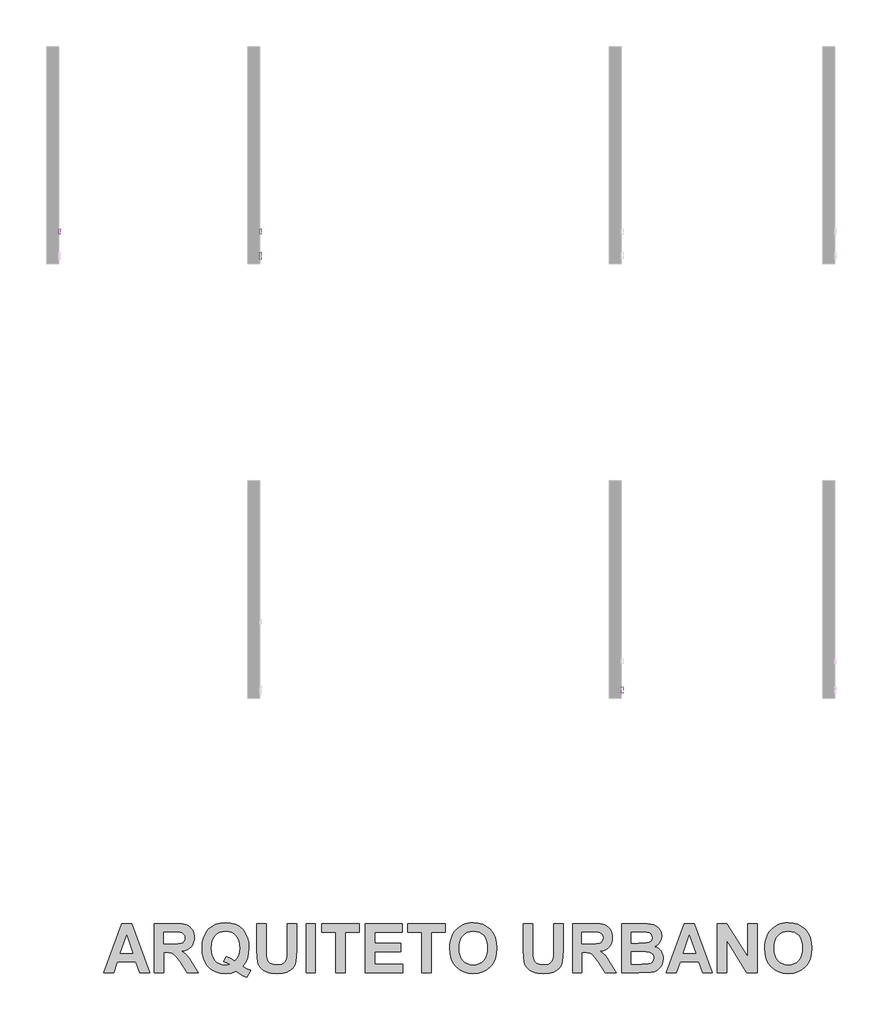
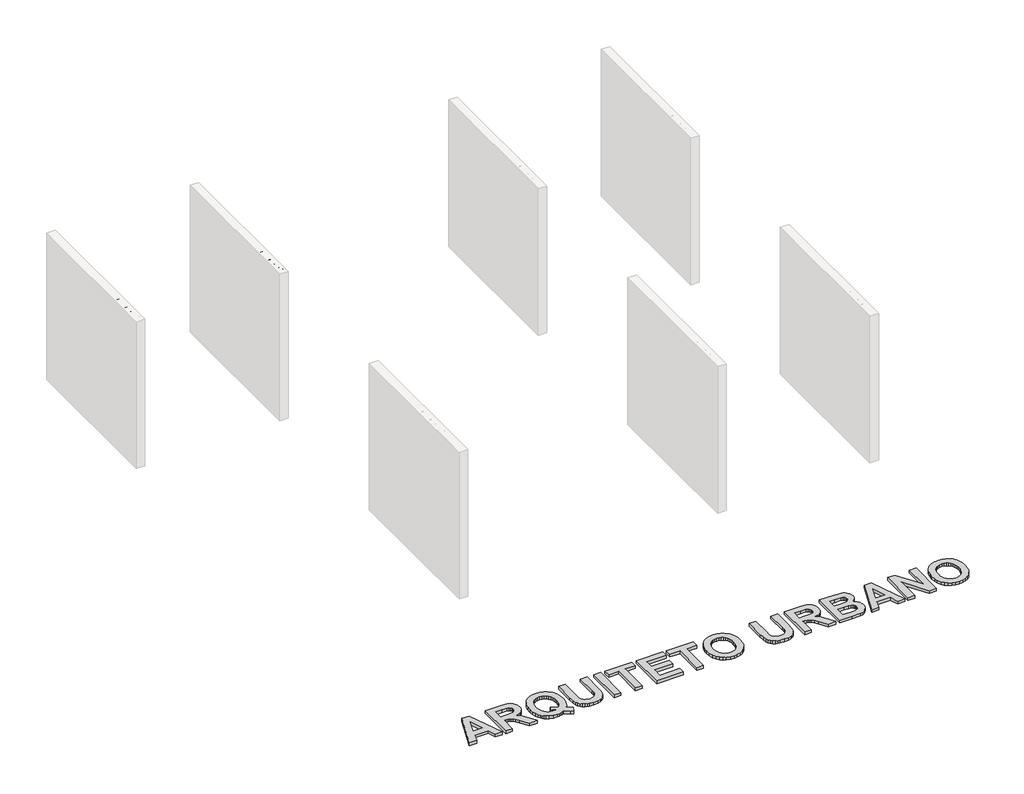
# One storey, part 3 of 8: 5 proxies.
"""IFC4 building model written with IfcOpenShell, lengths in millimetres."""

from ifc_helpers import new_model, si_unit, frame, origin, origin_with_axes, place, context, project, spatial, polyline, outline, extrude, element, save

model = new_model("IFC4")

# Units and contexts
model_context = context("Model", 3, world=origin())
ifc_project = project(units=[si_unit("LENGTHUNIT", "METRE", prefix="MILLI")], contexts=[model_context])

# Site, building, storey
site = spatial("IfcSite", under=ifc_project)
building = spatial("IfcBuilding", under=site)
storey = spatial("IfcBuildingStorey", under=building, Name="PORTOBELLO - SHOWROOM", Elevation=0.0)

# Proxies
placement = place(None, origin())
element("IfcBuildingElementProxy", 1, Name="10mm Arial", ObjectType="10mm Arial", at=placement, inside=storey, context=model_context, shape_type="SweptSolid", body=[
    extrude(outline(polyline([(-3776.6101833, 2548.8308244), (-3736.5110458, 2649.2871345), (-3725.8179425, 2649.2871345), (-3685.718805, 2548.8308244), (-3698.9870823, 2548.8308244), (-3710.489526, 2580.2234213), (-3751.8639877, 2580.2234213), (-3763.341906, 2548.8308244), (-3776.6101833, 2548.8308244)]), holes=[polyline([(-3747.2532, 2592.7804601), (-3715.0757882, 2592.7804601), (-3724.1256853, 2617.4776047), (-3731.1644941, 2636.7300958), (-3737.418488, 2619.6358457), (-3747.2532, 2592.7804601)])]), frame((-16732.9960483, 0.0, 0.0), z_axis=(1.0, 0.0, 0.0), x_axis=(0.0, 1.0, 0.0)), (0.0, 0.0, 1.0), 20.0),
    extrude(outline(polyline([(-3673.8730047, 2548.8308244), (-3673.8730047, 2622.6034272), (-3661.315966, 2622.6034272), (-3661.315966, 2612.3027313), (-3651.7142459, 2621.2054756), (-3638.6053841, 2624.173057), (-3626.7473212, 2621.781824), (-3618.6539173, 2615.5033046), (-3614.8892582, 2606.2694666), (-3614.2270706, 2594.1293607), (-3614.2270706, 2548.8308244), (-3626.7841094, 2548.8308244), (-3626.7841094, 2592.4371035), (-3628.2311119, 2603.5471398), (-3633.3446716, 2609.420989), (-3641.965373, 2611.6160182), (-3655.5892696, 2606.6863995), (-3659.8842919, 2599.5433574), (-3661.315966, 2587.9734687), (-3661.315966, 2548.8308244), (-3673.8730047, 2548.8308244)])), frame((-16732.9960483, 0.0, 0.0), z_axis=(1.0, 0.0, 0.0), x_axis=(0.0, 1.0, 0.0)), (0.0, 0.0, 1.0), 20.0),
    extrude(outline(polyline([(-16712.9960483, -3584.4041035), (-16712.9960483, -3596.9611423), (-16732.9960483, -3596.9611423), (-16732.9960483, -3584.4041035), (-16712.9960483, -3584.4041035)])), frame((0.0, 0.0, 2548.8308244), z_axis=(0.0, 0.0, 1.0), x_axis=(1.0, 0.0, 0.0)), (0.0, 0.0, 1.0), 73.7726028),
    extrude(outline(polyline([(-16712.9960483, -3584.4041035), (-16712.9960483, -3596.9611423), (-16732.9960483, -3596.9611423), (-16732.9960483, -3584.4041035), (-16712.9960483, -3584.4041035)])), frame((0.0, 0.0, 2636.7300958), z_axis=(0.0, 0.0, 1.0), x_axis=(1.0, 0.0, 0.0)), (0.0, 0.0, 1.0), 12.5570388),
    extrude(outline(polyline([(-3570.2774349, 2570.8056422), (-3557.7203961, 2572.3752721), (-3551.9078606, 2563.0555949), (-3538.5905324, 2559.8182333), (-3525.7882389, 2562.7858147), (-3521.6189097, 2569.7510472), (-3525.8127644, 2575.3919044), (-3538.7376852, 2578.9726225), (-3557.6468197, 2585.1162518), (-3565.8996392, 2592.2899507), (-3568.707805, 2602.4189683), (-3566.4514621, 2611.7754338), (-3560.2955701, 2618.9246072), (-3552.3125308, 2622.6402154), (-3541.5090629, 2624.173057), (-3526.2296973, 2621.7082476), (-3516.5176127, 2615.0373208), (-3512.2011306, 2603.767869), (-3524.7581694, 2602.1982392), (-3529.4793216, 2609.1266834), (-3540.5280442, 2611.6160182), (-3552.5455227, 2609.237048), (-3556.1507663, 2603.6942926), (-3554.6547128, 2600.0399981), (-3549.9703488, 2597.2686204), (-3539.1546181, 2594.5953446), (-3520.7237301, 2588.6847072), (-3512.1643424, 2581.9892549), (-3509.0618709, 2571.0754224), (-3512.7039026, 2559.0579439), (-3523.213065, 2550.3391406), (-3538.7622106, 2547.2611945), (-3551.4234826, 2548.7449853), (-3560.6634521, 2553.1963574), (-3566.8316069, 2560.56626), (-3570.2774349, 2570.8056422)])), frame((-16732.9960483, 0.0, 0.0), z_axis=(1.0, 0.0, 0.0), x_axis=(0.0, 1.0, 0.0)), (0.0, 0.0, 1.0), 20.0),
])
element("IfcBuildingElementProxy", 2, Name="10mm Arial", ObjectType="10mm Arial", at=placement, inside=storey, context=model_context, shape_type="SweptSolid", body=[
    extrude(outline(polyline([(-9164.9115358, 2548.8308244), (-9164.9115358, 2649.2871345), (-9151.4715803, 2649.2871345), (-9098.9870823, 2569.7019962), (-9098.9870823, 2649.2871345), (-9086.4300435, 2649.2871345), (-9086.4300435, 2548.8308244), (-9099.8699991, 2548.8308244), (-9152.354497, 2628.4404881), (-9152.354497, 2548.8308244), (-9164.9115358, 2548.8308244)])), frame((-12236.674587, 0.0, 0.0), z_axis=(1.0, 0.0, 0.0), x_axis=(0.0, 1.0, 0.0)), (0.0, 0.0, 1.0), 20.0),
    extrude(outline(polyline([(-9014.3742234, 2570.8056422), (-9002.0624393, 2569.2360124), (-9006.498483, 2559.9592547), (-9013.5771457, 2553.0246791), (-9023.1390119, 2548.7020657), (-9035.024666, 2547.2611945), (-9049.75834, 2549.7474637), (-9061.0952368, 2557.2062711), (-9068.324118, 2569.1532389), (-9070.733745, 2585.1039891), (-9068.2995925, 2601.5912339), (-9060.9971349, 2613.9214121), (-9049.8135223, 2621.6101458), (-9035.7359046, 2624.173057), (-9022.0966796, 2621.6162771), (-9011.1981755, 2613.9459375), (-9004.0520677, 2601.6402848), (-9001.6700318, 2585.1775655), (-9001.7436082, 2581.7930512), (-9058.1767063, 2581.7930512), (-9056.0031368, 2572.3936662), (-9050.9539564, 2565.483616), (-9043.6668272, 2561.234579), (-9034.7794114, 2559.8182333), (-9022.4676273, 2562.4424582), (-9014.3742234, 2570.8056422)]), holes=[polyline([(-9058.1767063, 2594.3500899), (-9014.2270706, 2594.3500899), (-9019.2547912, 2605.7299063), (-9026.5756429, 2610.1444902), (-9035.7849555, 2611.6160182), (-9051.248262, 2606.9193914), (-9056.1135014, 2601.4287526), (-9058.1767063, 2594.3500899)])]), frame((-12236.674587, 0.0, 0.0), z_axis=(1.0, 0.0, 0.0), x_axis=(0.0, 1.0, 0.0)), (0.0, 0.0, 1.0), 20.0),
    extrude(outline(polyline([(-8971.0131989, 2548.8308244), (-8996.9611423, 2622.6034272), (-8983.6683395, 2622.6034272), (-8967.9475156, 2578.4085368), (-8963.2141006, 2563.5461042), (-8958.5787874, 2577.5746709), (-8942.7598617, 2622.6034272), (-8929.4670589, 2622.6034272), (-8955.0961712, 2548.8308244), (-8971.0131989, 2548.8308244)])), frame((-12236.674587, 0.0, 0.0), z_axis=(1.0, 0.0, 0.0), x_axis=(0.0, 1.0, 0.0)), (0.0, 0.0, 1.0), 20.0),
    extrude(outline(polyline([(-8866.8290179, 2570.8056422), (-8854.5172337, 2569.2360124), (-8858.9532775, 2559.9592547), (-8866.0319402, 2553.0246791), (-8875.5938064, 2548.7020657), (-8887.4794605, 2547.2611945), (-8902.2131344, 2549.7474637), (-8913.5500312, 2557.2062711), (-8920.7789124, 2569.1532389), (-8923.1885395, 2585.1039891), (-8920.754387, 2601.5912339), (-8913.4519294, 2613.9214121), (-8902.2683167, 2621.6101458), (-8888.190699, 2624.173057), (-8874.5514741, 2621.6162771), (-8863.65297, 2613.9459375), (-8856.5068622, 2601.6402848), (-8854.1248263, 2585.1775655), (-8854.1984027, 2581.7930512), (-8910.6315007, 2581.7930512), (-8908.4579313, 2572.3936662), (-8903.4087509, 2565.483616), (-8896.1216217, 2561.234579), (-8887.2342059, 2559.8182333), (-8874.9224217, 2562.4424582), (-8866.8290179, 2570.8056422)]), holes=[polyline([(-8910.6315007, 2594.3500899), (-8866.6818651, 2594.3500899), (-8871.7095857, 2605.7299063), (-8879.0304374, 2610.1444902), (-8888.23975, 2611.6160182), (-8903.7030565, 2606.9193914), (-8908.5682959, 2601.4287526), (-8910.6315007, 2594.3500899)])]), frame((-12236.674587, 0.0, 0.0), z_axis=(1.0, 0.0, 0.0), x_axis=(0.0, 1.0, 0.0)), (0.0, 0.0, 1.0), 20.0),
])
element("IfcBuildingElementProxy", 3, Name="10mm Arial Narrow", ObjectType="10mm Arial Narrow", at=placement, inside=storey, context=model_context, shape_type="SweptSolid", body=[
    extrude(outline(polyline([(-3457.7764767, 2548.8308244), (-3457.7764767, 2649.5494281), (-3426.479592, 2649.5494281), (-3410.1838905, 2647.6711074), (-3398.7109044, 2638.1906642), (-3394.4212259, 2621.1715554), (-3396.2075343, 2609.0957299), (-3401.5664595, 2599.4693361), (-3411.3102484, 2593.1680777), (-3426.2511476, 2591.0676582), (-3448.029515, 2591.0676582), (-3448.029515, 2548.8308244), (-3457.7764767, 2548.8308244)]), holes=[polyline([(-3448.029515, 2602.4391135), (-3425.0581601, 2602.4391135), (-3409.1939647, 2606.9699277), (-3404.1681876, 2620.6385184), (-3406.6430021, 2630.8042949), (-3412.6206309, 2636.6042447), (-3425.2866045, 2638.1779729), (-3448.029515, 2638.1779729), (-3448.029515, 2602.4391135)])]), frame((-16732.9960483, 0.0, 0.0), z_axis=(1.0, 0.0, 0.0), x_axis=(0.0, 1.0, 0.0)), (0.0, 0.0, 1.0), 20.0),
    extrude(outline(polyline([(-3386.2987579, 2585.3819306), (-3384.344289, 2601.9727061), (-3378.4808824, 2613.9247909), (-3369.6223157, 2621.1493455), (-3358.6823665, 2623.5575304), (-3347.869331, 2621.1493455), (-3338.9853815, 2613.9247909), (-3333.0458268, 2602.1630765), (-3331.0659752, 2586.143412), (-3333.0109255, 2568.9815254), (-3338.8457766, 2556.8390702), (-3347.6948248, 2549.6145156), (-3358.6823665, 2547.2063308), (-3369.5429947, 2549.6208613), (-3378.4174256, 2556.8644529), (-3384.3284248, 2568.8228834), (-3386.2987579, 2585.3819306)]), holes=[polyline([(-3376.5517962, 2585.4073133), (-3375.2477594, 2572.8555619), (-3371.3356488, 2563.9843038), (-3365.494452, 2558.7110453), (-3358.4031567, 2556.9532924), (-3351.6830835, 2558.7269095), (-3345.9910102, 2564.0477606), (-3342.1074552, 2572.9348829), (-3340.8129368, 2585.4073133), (-3342.1169737, 2597.9209906), (-3346.0290843, 2606.7795573), (-3351.870281, 2612.0528159), (-3358.9615764, 2613.8105687), (-3365.7292421, 2612.0432974), (-3371.4117969, 2606.7414833), (-3375.2667964, 2597.873398), (-3376.5517962, 2585.4073133)])]), frame((-16732.9960483, 0.0, 0.0), z_axis=(1.0, 0.0, 0.0), x_axis=(0.0, 1.0, 0.0)), (0.0, 0.0, 1.0), 20.0),
    extrude(outline(polyline([(-3259.5882564, 2556.9532924), (-3257.9637628, 2547.2063308), (-3265.3247495, 2547.2063308), (-3273.5995138, 2549.3257873), (-3277.9145749, 2555.1257371), (-3279.0821797, 2569.7715623), (-3279.0821797, 2612.1860751), (-3287.2046478, 2612.1860751), (-3287.2046478, 2615.4350624), (-3288.8291414, 2610.5615815), (-3296.3931897, 2612.1860751), (-3302.4723494, 2609.8635569), (-3306.3432131, 2603.3782738), (-3308.3230647, 2587.9709673), (-3308.3230647, 2548.8308244), (-3318.0700263, 2548.8308244), (-3318.0700263, 2621.9330368), (-3308.3230647, 2621.9330368), (-3308.3230647, 2612.2368406), (-3302.0789174, 2621.3238517), (-3295.6824738, 2623.5575304), (-3287.2046478, 2621.9330368), (-3279.0821797, 2621.9330368), (-3279.0821797, 2638.1779729), (-3269.3352181, 2646.3004409), (-3269.3352181, 2621.9330368), (-3259.5882564, 2621.9330368), (-3259.5882564, 2612.1860751), (-3269.3352181, 2612.1860751), (-3269.3352181, 2567.5378836), (-3268.4722058, 2559.5423291), (-3263.8525521, 2556.9532924), (-3259.5882564, 2556.9532924)])), frame((-16732.9960483, 0.0, 0.0), z_axis=(1.0, 0.0, 0.0), x_axis=(0.0, 1.0, 0.0)), (0.0, 0.0, 1.0), 20.0),
    extrude(outline(polyline([(-3253.090282, 2585.3819306), (-3251.1358131, 2601.9727061), (-3245.2724065, 2613.9247909), (-3236.4138398, 2621.1493455), (-3225.4738906, 2623.5575304), (-3214.660855, 2621.1493455), (-3205.7769056, 2613.9247909), (-3199.8373508, 2602.1630765), (-3197.8574993, 2586.143412), (-3199.8024496, 2568.9815254), (-3205.6373007, 2556.8390702), (-3214.4863489, 2549.6145156), (-3225.4738906, 2547.2063308), (-3236.3345188, 2549.6208613), (-3245.2089497, 2556.8644529), (-3251.1199489, 2568.8228834), (-3253.090282, 2585.3819306)]), holes=[polyline([(-3243.3433203, 2585.4073133), (-3242.0392834, 2572.8555619), (-3238.1271729, 2563.9843038), (-3232.2859761, 2558.7110453), (-3225.1946808, 2556.9532924), (-3218.4746076, 2558.7269095), (-3212.7825343, 2564.0477606), (-3208.8989793, 2572.9348829), (-3207.6044609, 2585.4073133), (-3208.9084978, 2597.9209906), (-3212.8206084, 2606.7795573), (-3218.6618051, 2612.0528159), (-3225.7531005, 2613.8105687), (-3232.5207662, 2612.0432974), (-3238.203321, 2606.7414833), (-3242.0583205, 2597.873398), (-3243.3433203, 2585.4073133)])]), frame((-16732.9960483, 0.0, 0.0), z_axis=(1.0, 0.0, 0.0), x_axis=(0.0, 1.0, 0.0)), (0.0, 0.0, 1.0), 20.0),
    extrude(outline(polyline([(-3175.1145887, 2548.8308244), (-3184.8615504, 2548.8308244), (-3184.8615504, 2649.5494281), (-3175.1145887, 2649.5494281), (-3175.1145887, 2614.140544), (-3167.715528, 2621.2223208), (-3158.5142947, 2623.5575304), (-3145.632568, 2619.3566915), (-3136.3551865, 2606.6272611), (-3132.8777549, 2585.9403503), (-3134.8100139, 2569.4860068), (-3140.6067909, 2557.2832677), (-3148.9799132, 2549.725565), (-3158.6412082, 2547.2063308), (-3167.9820465, 2549.8207502), (-3175.1145887, 2557.5878602), (-3175.1145887, 2548.8308244)]), holes=[polyline([(-3175.1145887, 2585.9403503), (-3173.0332063, 2568.692797), (-3167.144417, 2559.9611439), (-3158.6919737, 2556.9532924), (-3152.7492461, 2558.7427737), (-3147.5108887, 2564.1112174), (-3142.6247166, 2585.5342269), (-3147.3332098, 2606.9699277), (-3152.5779128, 2612.1004085), (-3158.8950354, 2613.8105687), (-3164.8726642, 2612.0210875), (-3170.1649598, 2606.6526438), (-3175.1145887, 2585.9403503)])]), frame((-16732.9960483, 0.0, 0.0), z_axis=(1.0, 0.0, 0.0), x_axis=(0.0, 1.0, 0.0)), (0.0, 0.0, 1.0), 20.0),
    extrude(outline(polyline([(-3080.8939594, 2571.5737349), (-3071.1469978, 2569.9492413), (-3074.8465281, 2560.0626747), (-3080.665515, 2552.9428238), (-3088.3691683, 2548.640454), (-3097.7226979, 2547.2063308), (-3109.3162519, 2549.6208613), (-3118.4603741, 2556.8644529), (-3124.3999289, 2568.6705872), (-3126.3797805, 2584.7727455), (-3124.3904104, 2601.4396692), (-3118.4223001, 2613.6201984), (-3109.4082642, 2621.0731974), (-3098.2811176, 2623.5575304), (-3087.5981684, 2621.1588641), (-3078.8506511, 2613.962865), (-3073.0158, 2602.2233604), (-3071.0708496, 2586.1941774), (-3071.1469978, 2582.9451902), (-3116.6328188, 2582.9451902), (-3110.6298073, 2563.5020323), (-3104.699771, 2558.5904774), (-3097.5957843, 2556.9532924), (-3087.4173166, 2560.608403), (-3080.8939594, 2571.5737349)]), holes=[polyline([(-3115.9728683, 2592.6921518), (-3080.8939594, 2592.6921518), (-3085.1582551, 2606.9572363), (-3090.9835877, 2612.0972356), (-3098.2049694, 2613.8105687), (-3110.4140542, 2608.0994584), (-3115.9728683, 2592.6921518)])]), frame((-16732.9960483, 0.0, 0.0), z_axis=(1.0, 0.0, 0.0), x_axis=(0.0, 1.0, 0.0)), (0.0, 0.0, 1.0), 20.0),
    extrude(outline(polyline([(-16712.9960483, -3048.4040872), (-16712.9960483, -3058.1510489), (-16732.9960483, -3058.1510489), (-16732.9960483, -3048.4040872), (-16712.9960483, -3048.4040872)])), frame((0.0, 0.0, 2548.8308244), z_axis=(0.0, 0.0, 1.0), x_axis=(1.0, 0.0, 0.0)), (0.0, 0.0, 1.0), 100.7186038),
    extrude(outline(polyline([(-16712.9960483, -3022.4121895), (-16712.9960483, -3032.1591512), (-16732.9960483, -3032.1591512), (-16732.9960483, -3022.4121895), (-16712.9960483, -3022.4121895)])), frame((0.0, 0.0, 2548.8308244), z_axis=(0.0, 0.0, 1.0), x_axis=(1.0, 0.0, 0.0)), (0.0, 0.0, 1.0), 100.7186038),
    extrude(outline(polyline([(-3011.0407342, 2585.3819306), (-3009.0862654, 2601.9727061), (-3003.2228587, 2613.9247909), (-2994.364292, 2621.1493455), (-2983.4243429, 2623.5575304), (-2972.6113073, 2621.1493455), (-2963.7273579, 2613.9247909), (-2957.7878031, 2602.1630765), (-2955.8079515, 2586.143412), (-2957.7529019, 2568.9815254), (-2963.587753, 2556.8390702), (-2972.4368012, 2549.6145156), (-2983.4243429, 2547.2063308), (-2994.2849711, 2549.6208613), (-3003.159402, 2556.8644529), (-3009.0704012, 2568.8228834), (-3011.0407342, 2585.3819306)]), holes=[polyline([(-3001.2937726, 2585.4073133), (-2999.9897357, 2572.8555619), (-2996.0776251, 2563.9843038), (-2990.2364284, 2558.7110453), (-2983.145133, 2556.9532924), (-2976.4250599, 2558.7269095), (-2970.7329866, 2564.0477606), (-2966.8494315, 2572.9348829), (-2965.5549132, 2585.4073133), (-2966.85895, 2597.9209906), (-2970.7710606, 2606.7795573), (-2976.6122574, 2612.0528159), (-2983.7035527, 2613.8105687), (-2990.4712185, 2612.0432974), (-2996.1537733, 2606.7414833), (-3000.0087728, 2597.873398), (-3001.2937726, 2585.4073133)])]), frame((-16732.9960483, 0.0, 0.0), z_axis=(1.0, 0.0, 0.0), x_axis=(0.0, 1.0, 0.0)), (0.0, 0.0, 1.0), 20.0),
])
element("IfcBuildingElementProxy", 4, Name="10mm Arial Narrow", ObjectType="10mm Arial Narrow", at=placement, inside=storey, context=model_context, shape_type="SweptSolid", body=[
    extrude(outline(polyline([(-3457.7764767, 2548.8308244), (-3457.7764767, 2649.5494281), (-3426.479592, 2649.5494281), (-3410.1838905, 2647.6711074), (-3398.7109044, 2638.1906642), (-3394.4212259, 2621.1715554), (-3396.2075343, 2609.0957299), (-3401.5664595, 2599.4693361), (-3411.3102484, 2593.1680777), (-3426.2511476, 2591.0676582), (-3448.029515, 2591.0676582), (-3448.029515, 2548.8308244), (-3457.7764767, 2548.8308244)]), holes=[polyline([(-3448.029515, 2602.4391135), (-3425.0581601, 2602.4391135), (-3409.1939647, 2606.9699277), (-3404.1681876, 2620.6385184), (-3406.6430021, 2630.8042949), (-3412.6206309, 2636.6042447), (-3425.2866045, 2638.1779729), (-3448.029515, 2638.1779729), (-3448.029515, 2602.4391135)])]), frame((-19232.9960483, 0.0, 0.0), z_axis=(1.0, 0.0, 0.0), x_axis=(0.0, 1.0, 0.0)), (0.0, 0.0, 1.0), 20.0),
    extrude(outline(polyline([(-3386.2987579, 2585.3819306), (-3384.344289, 2601.9727061), (-3378.4808824, 2613.9247909), (-3369.6223157, 2621.1493455), (-3358.6823665, 2623.5575304), (-3347.869331, 2621.1493455), (-3338.9853815, 2613.9247909), (-3333.0458268, 2602.1630765), (-3331.0659752, 2586.143412), (-3333.0109255, 2568.9815254), (-3338.8457766, 2556.8390702), (-3347.6948248, 2549.6145156), (-3358.6823665, 2547.2063308), (-3369.5429947, 2549.6208613), (-3378.4174256, 2556.8644529), (-3384.3284248, 2568.8228834), (-3386.2987579, 2585.3819306)]), holes=[polyline([(-3376.5517962, 2585.4073133), (-3375.2477594, 2572.8555619), (-3371.3356488, 2563.9843038), (-3365.494452, 2558.7110453), (-3358.4031567, 2556.9532924), (-3351.6830835, 2558.7269095), (-3345.9910102, 2564.0477606), (-3342.1074552, 2572.9348829), (-3340.8129368, 2585.4073133), (-3342.1169737, 2597.9209906), (-3346.0290843, 2606.7795573), (-3351.870281, 2612.0528159), (-3358.9615764, 2613.8105687), (-3365.7292421, 2612.0432974), (-3371.4117969, 2606.7414833), (-3375.2667964, 2597.873398), (-3376.5517962, 2585.4073133)])]), frame((-19232.9960483, 0.0, 0.0), z_axis=(1.0, 0.0, 0.0), x_axis=(0.0, 1.0, 0.0)), (0.0, 0.0, 1.0), 20.0),
    extrude(outline(polyline([(-3259.5882564, 2556.9532924), (-3257.9637628, 2547.2063308), (-3265.3247495, 2547.2063308), (-3273.5995138, 2549.3257873), (-3277.9145749, 2555.1257371), (-3279.0821797, 2569.7715623), (-3279.0821797, 2612.1860751), (-3287.2046478, 2612.1860751), (-3287.2046478, 2615.4350624), (-3288.8291414, 2610.5615815), (-3296.3931897, 2612.1860751), (-3302.4723494, 2609.8635569), (-3306.3432131, 2603.3782738), (-3308.3230647, 2587.9709673), (-3308.3230647, 2548.8308244), (-3318.0700263, 2548.8308244), (-3318.0700263, 2621.9330368), (-3308.3230647, 2621.9330368), (-3308.3230647, 2612.2368406), (-3302.0789174, 2621.3238517), (-3295.6824738, 2623.5575304), (-3287.2046478, 2621.9330368), (-3279.0821797, 2621.9330368), (-3279.0821797, 2638.1779729), (-3269.3352181, 2646.3004409), (-3269.3352181, 2621.9330368), (-3259.5882564, 2621.9330368), (-3259.5882564, 2612.1860751), (-3269.3352181, 2612.1860751), (-3269.3352181, 2567.5378836), (-3268.4722058, 2559.5423291), (-3263.8525521, 2556.9532924), (-3259.5882564, 2556.9532924)])), frame((-19232.9960483, 0.0, 0.0), z_axis=(1.0, 0.0, 0.0), x_axis=(0.0, 1.0, 0.0)), (0.0, 0.0, 1.0), 20.0),
    extrude(outline(polyline([(-3253.090282, 2585.3819306), (-3251.1358131, 2601.9727061), (-3245.2724065, 2613.9247909), (-3236.4138398, 2621.1493455), (-3225.4738906, 2623.5575304), (-3214.660855, 2621.1493455), (-3205.7769056, 2613.9247909), (-3199.8373508, 2602.1630765), (-3197.8574993, 2586.143412), (-3199.8024496, 2568.9815254), (-3205.6373007, 2556.8390702), (-3214.4863489, 2549.6145156), (-3225.4738906, 2547.2063308), (-3236.3345188, 2549.6208613), (-3245.2089497, 2556.8644529), (-3251.1199489, 2568.8228834), (-3253.090282, 2585.3819306)]), holes=[polyline([(-3243.3433203, 2585.4073133), (-3242.0392834, 2572.8555619), (-3238.1271729, 2563.9843038), (-3232.2859761, 2558.7110453), (-3225.1946808, 2556.9532924), (-3218.4746076, 2558.7269095), (-3212.7825343, 2564.0477606), (-3208.8989793, 2572.9348829), (-3207.6044609, 2585.4073133), (-3208.9084978, 2597.9209906), (-3212.8206084, 2606.7795573), (-3218.6618051, 2612.0528159), (-3225.7531005, 2613.8105687), (-3232.5207662, 2612.0432974), (-3238.203321, 2606.7414833), (-3242.0583205, 2597.873398), (-3243.3433203, 2585.4073133)])]), frame((-19232.9960483, 0.0, 0.0), z_axis=(1.0, 0.0, 0.0), x_axis=(0.0, 1.0, 0.0)), (0.0, 0.0, 1.0), 20.0),
    extrude(outline(polyline([(-3175.1145887, 2548.8308244), (-3184.8615504, 2548.8308244), (-3184.8615504, 2649.5494281), (-3175.1145887, 2649.5494281), (-3175.1145887, 2614.140544), (-3167.715528, 2621.2223208), (-3158.5142947, 2623.5575304), (-3145.632568, 2619.3566915), (-3136.3551865, 2606.6272611), (-3132.8777549, 2585.9403503), (-3134.8100139, 2569.4860068), (-3140.6067909, 2557.2832677), (-3148.9799132, 2549.725565), (-3158.6412082, 2547.2063308), (-3167.9820465, 2549.8207502), (-3175.1145887, 2557.5878602), (-3175.1145887, 2548.8308244)]), holes=[polyline([(-3175.1145887, 2585.9403503), (-3173.0332063, 2568.692797), (-3167.144417, 2559.9611439), (-3158.6919737, 2556.9532924), (-3152.7492461, 2558.7427737), (-3147.5108887, 2564.1112174), (-3142.6247166, 2585.5342269), (-3147.3332098, 2606.9699277), (-3152.5779128, 2612.1004085), (-3158.8950354, 2613.8105687), (-3164.8726642, 2612.0210875), (-3170.1649598, 2606.6526438), (-3175.1145887, 2585.9403503)])]), frame((-19232.9960483, 0.0, 0.0), z_axis=(1.0, 0.0, 0.0), x_axis=(0.0, 1.0, 0.0)), (0.0, 0.0, 1.0), 20.0),
    extrude(outline(polyline([(-3080.8939594, 2571.5737349), (-3071.1469978, 2569.9492413), (-3074.8465281, 2560.0626747), (-3080.665515, 2552.9428238), (-3088.3691683, 2548.640454), (-3097.7226979, 2547.2063308), (-3109.3162519, 2549.6208613), (-3118.4603741, 2556.8644529), (-3124.3999289, 2568.6705872), (-3126.3797805, 2584.7727455), (-3124.3904104, 2601.4396692), (-3118.4223001, 2613.6201984), (-3109.4082642, 2621.0731974), (-3098.2811176, 2623.5575304), (-3087.5981684, 2621.1588641), (-3078.8506511, 2613.962865), (-3073.0158, 2602.2233604), (-3071.0708496, 2586.1941774), (-3071.1469978, 2582.9451902), (-3116.6328188, 2582.9451902), (-3110.6298073, 2563.5020323), (-3104.699771, 2558.5904774), (-3097.5957843, 2556.9532924), (-3087.4173166, 2560.608403), (-3080.8939594, 2571.5737349)]), holes=[polyline([(-3115.9728683, 2592.6921518), (-3080.8939594, 2592.6921518), (-3085.1582551, 2606.9572363), (-3090.9835877, 2612.0972356), (-3098.2049694, 2613.8105687), (-3110.4140542, 2608.0994584), (-3115.9728683, 2592.6921518)])]), frame((-19232.9960483, 0.0, 0.0), z_axis=(1.0, 0.0, 0.0), x_axis=(0.0, 1.0, 0.0)), (0.0, 0.0, 1.0), 20.0),
    extrude(outline(polyline([(-19212.9960483, -3048.4040872), (-19212.9960483, -3058.1510489), (-19232.9960483, -3058.1510489), (-19232.9960483, -3048.4040872), (-19212.9960483, -3048.4040872)])), frame((0.0, 0.0, 2548.8308244), z_axis=(0.0, 0.0, 1.0), x_axis=(1.0, 0.0, 0.0)), (0.0, 0.0, 1.0), 100.7186038),
    extrude(outline(polyline([(-19212.9960483, -3022.4121895), (-19212.9960483, -3032.1591512), (-19232.9960483, -3032.1591512), (-19232.9960483, -3022.4121895), (-19212.9960483, -3022.4121895)])), frame((0.0, 0.0, 2548.8308244), z_axis=(0.0, 0.0, 1.0), x_axis=(1.0, 0.0, 0.0)), (0.0, 0.0, 1.0), 100.7186038),
    extrude(outline(polyline([(-3011.0407342, 2585.3819306), (-3009.0862654, 2601.9727061), (-3003.2228587, 2613.9247909), (-2994.364292, 2621.1493455), (-2983.4243429, 2623.5575304), (-2972.6113073, 2621.1493455), (-2963.7273579, 2613.9247909), (-2957.7878031, 2602.1630765), (-2955.8079515, 2586.143412), (-2957.7529019, 2568.9815254), (-2963.587753, 2556.8390702), (-2972.4368012, 2549.6145156), (-2983.4243429, 2547.2063308), (-2994.2849711, 2549.6208613), (-3003.159402, 2556.8644529), (-3009.0704012, 2568.8228834), (-3011.0407342, 2585.3819306)]), holes=[polyline([(-3001.2937726, 2585.4073133), (-2999.9897357, 2572.8555619), (-2996.0776251, 2563.9843038), (-2990.2364284, 2558.7110453), (-2983.145133, 2556.9532924), (-2976.4250599, 2558.7269095), (-2970.7329866, 2564.0477606), (-2966.8494315, 2572.9348829), (-2965.5549132, 2585.4073133), (-2966.85895, 2597.9209906), (-2970.7710606, 2606.7795573), (-2976.6122574, 2612.0528159), (-2983.7035527, 2613.8105687), (-2990.4712185, 2612.0432974), (-2996.1537733, 2606.7414833), (-3000.0087728, 2597.873398), (-3001.2937726, 2585.4073133)])]), frame((-19232.9960483, 0.0, 0.0), z_axis=(1.0, 0.0, 0.0), x_axis=(0.0, 1.0, 0.0)), (0.0, 0.0, 1.0), 20.0),
])
element("IfcBuildingElementProxy", 5, Name="600mm Arial", ObjectType="600mm Arial", at=placement, inside=storey, context=model_context, shape_type="SweptSolid", body=[
    extrude(outline(polyline([(-18100.8703368, -12640.1164902), (-18223.3925594, -12640.1164902), (-18271.369043, -12504.0819036), (-18502.5974755, -12504.0819036), (-18549.9666619, -12640.1164902), (-18674.158952, -12640.1164902), (-18450.6735596, -12027.9608503), (-18326.4812696, -12027.9608503), (-18100.8703368, -12640.1164902)]), holes=[polyline([(-18308.7178246, -12397.1975855), (-18387.5146444, -12173.7121931), (-18465.2486939, -12397.1975855), (-18308.7178246, -12397.1975855)])]), origin_with_axes(), (0.0, 0.0, 1.0), 50.0),
    extrude(outline(polyline([(-18042.5697996, -12640.1164902), (-18042.5697996, -12027.9608503), (-17785.0757606, -12027.9608503), (-17701.1928263, -12032.0980629), (-17669.2148298, -12037.2695786), (-17643.8791472, -12044.5097007), (-17622.9653477, -12054.3972592), (-17604.2530009, -12067.5110844), (-17587.7421066, -12083.8511764), (-17573.4326648, -12103.4175351), (-17561.8750388, -12125.3656377), (-17553.6195917, -12148.8509615), (-17548.6663234, -12173.8735065), (-17547.0152339, -12200.4332726), (-17549.4017224, -12233.5404624), (-17556.5611878, -12263.630144), (-17568.4936301, -12290.7023172), (-17585.1990493, -12314.7569822), (-17606.6584674, -12335.2153087), (-17632.8529063, -12351.4984665), (-17663.7823661, -12363.6064557), (-17699.4468467, -12371.5392762), (-17665.6279804, -12395.9070788), (-17638.2616475, -12422.5522462), (-17609.9464127, -12461.1535784), (-17573.2808405, -12521.3898755), (-17498.431453, -12640.1164902), (-17634.617864, -12640.1164902), (-17723.2832642, -12500.2862957), (-17766.1166992, -12446.5974221), (-17792.8947128, -12417.3143073), (-17812.214357, -12402.9099754), (-17832.6726835, -12393.8574505), (-17859.8302579, -12389.0749846), (-17899.2476458, -12387.4808293), (-17925.9687253, -12387.4808293), (-17925.9687253, -12640.1164902), (-18042.5697996, -12640.1164902)]), holes=[polyline([(-17925.9687253, -12280.5965112), (-17829.8639337, -12280.5965112), (-17754.00871, -12278.8315535), (-17713.1869472, -12273.5366805), (-17692.4249721, -12263.9337926), (-17676.7491115, -12249.2447901), (-17666.899509, -12229.8682118), (-17663.6163082, -12206.2025966), (-17667.9433012, -12179.9939242), (-17680.9242802, -12159.3647953), (-17701.8001236, -12144.8086391), (-17729.8117098, -12136.8188845), (-17824.5500826, -12134.8451684), (-17925.9687253, -12134.8451684), (-17925.9687253, -12280.5965112)])]), origin_with_axes(), (0.0, 0.0, 1.0), 50.0),
    extrude(outline(polyline([(-16943.6654043, -12559.4977787), (-16897.4349002, -12588.5341791), (-16847.4087882, -12610.9662217), (-16891.7414884, -12698.4170274), (-16945.0318231, -12676.554326), (-17025.0432373, -12623.8712885), (-17055.21832, -12635.2296451), (-17086.9875581, -12643.3427569), (-17120.3509514, -12648.2106241), (-17155.3085, -12649.8332464), (-17220.6404008, -12644.6522417), (-17278.4759759, -12629.1092274), (-17328.8152255, -12603.2042035), (-17351.1737283, -12586.3659381), (-17371.6581496, -12566.9371702), (-17389.9838189, -12545.1646144), (-17405.8660656, -12521.2949853), (-17430.3002914, -12467.2645071), (-17444.9608269, -12404.8457354), (-17449.847672, -12334.0386703), (-17444.9228708, -12263.416641), (-17430.1484671, -12201.097504), (-17405.5244609, -12147.0812593), (-17389.5188569, -12123.1867215), (-17371.0508523, -12101.3679068), (-17328.1415051, -12065.0012387), (-17278.2102834, -12039.0250473), (-17221.2571871, -12023.4393324), (-17157.2822161, -12018.2440941), (-17093.8670974, -12023.4156098), (-17037.378963, -12038.9301571), (-16987.817813, -12064.7877358), (-16945.1836474, -12100.988346), (-16926.8223943, -12122.7087121), (-16910.9093082, -12146.4976846), (-16886.4276373, -12200.2814483), (-16871.7386348, -12262.3396373), (-16866.8423006, -12332.6722514), (-16872.4598003, -12406.6866052), (-16879.4816749, -12440.1069326), (-16889.3122993, -12471.1360271), (-16911.4027372, -12516.0760245), (-16943.6654043, -12559.4977787)]), holes=[polyline([(-17040.3774932, -12492.8469042), (-17015.4213714, -12462.1404364), (-16997.6389484, -12425.5887325), (-16986.9922683, -12383.1917924), (-16983.4433749, -12334.9496161), (-16986.4608832, -12285.526057), (-16995.513408, -12242.7732786), (-17010.6009493, -12206.6912811), (-17031.7235072, -12177.2800645), (-17057.7329103, -12154.4637166), (-17087.4809871, -12138.1663253), (-17120.9677377, -12128.3878904), (-17158.193162, -12125.1284122), (-17195.3663968, -12128.3641679), (-17228.8484028, -12138.0714351), (-17258.6391802, -12154.2502137), (-17284.738729, -12176.9005037), (-17305.9609216, -12206.0507723), (-17321.1196306, -12241.7294864), (-17330.214856, -12283.9366461), (-17333.2465978, -12332.6722514), (-17330.2575565, -12382.1100441), (-17321.2904329, -12424.9055231), (-17306.3452269, -12461.0586882), (-17285.4219384, -12490.5695395), (-17259.9344314, -12513.4855221), (-17231.2965699, -12529.8540811), (-17199.5083539, -12539.6752165), (-17164.5697833, -12542.9489283), (-17138.1143963, -12540.9752122), (-17113.1013403, -12535.0540639), (-17149.994649, -12517.3665312), (-17187.4952549, -12504.0819036), (-17153.7902569, -12436.0646102), (-17095.7554123, -12459.7492035), (-17040.3774932, -12492.8469042)])]), origin_with_axes(), (0.0, 0.0, 1.0), 50.0),
    extrude(outline(polyline([(-16769.6747387, -12027.9608503), (-16653.0736644, -12027.9608503), (-16653.0736644, -12358.1787364), (-16651.8211138, -12423.0077191), (-16648.063462, -12460.2046764), (-16642.2466929, -12477.9633768), (-16633.4503717, -12493.8906964), (-16621.6744982, -12507.9866352), (-16606.9190725, -12520.2511932), (-16589.1840947, -12530.1814523), (-16568.4695647, -12537.2744945), (-16518.101848, -12542.9489283), (-16467.7910655, -12537.5971212), (-16447.9447807, -12530.9073623), (-16431.6379003, -12521.5416999), (-16408.3518459, -12497.6863043), (-16396.6423956, -12468.9345745), (-16392.2015344, -12427.4296023), (-16390.7212473, -12365.3144792), (-16390.7212473, -12027.9608503), (-16274.120173, -12027.9608503), (-16274.120173, -12349.0692775), (-16276.6632303, -12443.0864848), (-16284.2924022, -12504.6892008), (-16298.7536682, -12546.5737339), (-16321.7930081, -12581.4363923), (-16353.7330485, -12609.5808248), (-16394.896416, -12631.3106799), (-16447.6743437, -12645.2026048), (-16514.4580644, -12649.8332464), (-16592.685543, -12644.7850879), (-16623.7431045, -12638.4748898), (-16649.4298809, -12629.6406125), (-16690.6122264, -12606.4114922), (-16722.153728, -12577.1093993), (-16744.320078, -12543.9737425), (-16757.3769692, -12509.2439303), (-16766.6002963, -12444.1872111), (-16769.6747387, -12354.0794799), (-16769.6747387, -12027.9608503)])), origin_with_axes(), (0.0, 0.0, 1.0), 50.0),
    extrude(outline(polyline([(-16157.5190988, -12640.1164902), (-16157.5190988, -12027.9608503), (-16040.9180245, -12027.9608503), (-16040.9180245, -12640.1164902), (-16157.5190988, -12640.1164902)])), origin_with_axes(), (0.0, 0.0, 1.0), 50.0),
    extrude(outline(polyline([(-15788.2823635, -12640.1164902), (-15788.2823635, -12134.8451684), (-15963.183975, -12134.8451684), (-15963.183975, -12027.9608503), (-15496.7796778, -12027.9608503), (-15496.7796778, -12134.8451684), (-15671.6812892, -12134.8451684), (-15671.6812892, -12640.1164902), (-15788.2823635, -12640.1164902)])), origin_with_axes(), (0.0, 0.0, 1.0), 50.0),
    extrude(outline(polyline([(-15419.0456283, -12640.1164902), (-15419.0456283, -12027.9608503), (-14962.3580874, -12027.9608503), (-14962.3580874, -12134.8451684), (-15302.444554, -12134.8451684), (-15302.444554, -12270.879755), (-14981.7915998, -12270.879755), (-14981.7915998, -12377.7640731), (-15302.444554, -12377.7640731), (-15302.444554, -12533.2321722), (-14952.6413312, -12533.2321722), (-14952.6413312, -12640.1164902), (-15419.0456283, -12640.1164902)])), origin_with_axes(), (0.0, 0.0, 1.0), 50.0),
    extrude(outline(polyline([(-14719.4391826, -12640.1164902), (-14719.4391826, -12134.8451684), (-14894.340794, -12134.8451684), (-14894.340794, -12027.9608503), (-14427.9364969, -12027.9608503), (-14427.9364969, -12134.8451684), (-14602.8381083, -12134.8451684), (-14602.8381083, -12640.1164902), (-14719.4391826, -12640.1164902)])), origin_with_axes(), (0.0, 0.0, 1.0), 50.0),
    extrude(outline(polyline([(-14369.6359598, -12337.8342781), (-14367.9184472, -12293.027127), (-14362.7659095, -12251.9776277), (-14354.1783467, -12214.6857803), (-14342.1557587, -12181.1515846), (-14317.9208023, -12136.9137747), (-14286.2084984, -12097.4204746), (-14249.0684753, -12065.1008734), (-14208.5503611, -12042.3841602), (-14179.3811145, -12031.8228813), (-14148.0483714, -12024.2791106), (-14114.5521318, -12019.7528482), (-14078.8923957, -12018.2440941), (-14015.7904145, -12023.4772885), (-13959.3307472, -12039.1768716), (-13909.5133937, -12065.3428434), (-13866.338354, -12101.9752041), (-13847.6568464, -12123.9292373), (-13831.4662065, -12147.925782), (-13806.5575298, -12202.046406), (-13791.6123237, -12264.3370759), (-13786.6305884, -12334.7977918), (-13791.5743676, -12404.7793122), (-13806.4057055, -12466.6951659), (-13831.1246018, -12520.5453528), (-13847.1918845, -12544.4458212), (-13865.7310567, -12566.3298729), (-13908.6214259, -12602.8625988), (-13958.1920649, -12628.9574031), (-14014.4429737, -12644.6142856), (-14077.3741525, -12649.8332464), (-14140.9695626, -12644.6380081), (-14197.6949225, -12629.0522933), (-14247.5502321, -12603.0761018), (-14290.5354914, -12566.7094337), (-14325.1419463, -12521.2333067), (-14349.8608427, -12467.9287385), (-14364.6921805, -12406.7957289), (-14369.6359598, -12337.8342781)]), holes=[polyline([(-14253.0348855, -12333.5831973), (-14249.9367206, -12382.0056649), (-14240.6422257, -12424.1843576), (-14225.1514011, -12460.1192752), (-14203.4642465, -12489.8104179), (-14177.004115, -12513.0585162), (-14147.1943596, -12529.6643007), (-14114.0349802, -12539.6277714), (-14077.5259768, -12542.9489283), (-14041.0549295, -12539.651494), (-14008.0094184, -12529.7591909), (-13978.3894433, -12513.2720192), (-13952.1950044, -12490.1899787), (-13930.7735424, -12460.5130696), (-13915.4724981, -12424.2412917), (-13906.2918715, -12381.3746451), (-13903.2316627, -12331.9131298), (-13906.2112148, -12283.1395685), (-13915.1498714, -12240.9703649), (-13930.0476324, -12205.405519), (-13950.9044977, -12176.4450308), (-13976.6956533, -12153.9940101), (-14006.396285, -12137.9575668), (-14040.0063929, -12128.3357008), (-14077.5259768, -12125.1284122), (-14115.0835169, -12128.3736569), (-14148.8074929, -12138.1093911), (-14178.697905, -12154.3356149), (-14204.7547532, -12177.0523281), (-14225.8773111, -12206.3069758), (-14240.9648524, -12242.1470033), (-14250.0173772, -12284.5724105), (-14253.0348855, -12333.5831973)])]), origin_with_axes(), (0.0, 0.0, 1.0), 50.0),
    extrude(outline(polyline([(-13456.2608779, -12027.9608503), (-13339.6598036, -12027.9608503), (-13339.6598036, -12358.1787364), (-13338.407253, -12423.0077191), (-13334.6496012, -12460.2046764), (-13328.8328321, -12477.9633768), (-13320.0365109, -12493.8906964), (-13308.2606374, -12507.9866352), (-13293.5052117, -12520.2511932), (-13275.7702339, -12530.1814523), (-13255.0557038, -12537.2744945), (-13204.6879872, -12542.9489283), (-13154.3772046, -12537.5971212), (-13134.5309199, -12530.9073623), (-13118.2240395, -12521.5416999), (-13094.9379851, -12497.6863043), (-13083.2285348, -12468.9345745), (-13078.7876736, -12427.4296023), (-13077.3073865, -12365.3144792), (-13077.3073865, -12027.9608503), (-12960.7063122, -12027.9608503), (-12960.7063122, -12349.0692775), (-12963.2493695, -12443.0864848), (-12970.8785414, -12504.6892008), (-12985.3398074, -12546.5737339), (-13008.3791473, -12581.4363923), (-13040.3191876, -12609.5808248), (-13081.4825552, -12631.3106799), (-13134.2604828, -12645.2026048), (-13201.0442036, -12649.8332464), (-13279.2716822, -12644.7850879), (-13310.3292437, -12638.4748898), (-13336.0160201, -12629.6406125), (-13377.1983656, -12606.4114922), (-13408.7398672, -12577.1093993), (-13430.9062172, -12543.9737425), (-13443.9631084, -12509.2439303), (-13453.1864355, -12444.1872111), (-13456.2608779, -12354.0794799), (-13456.2608779, -12027.9608503)])), origin_with_axes(), (0.0, 0.0, 1.0), 50.0),
    extrude(outline(polyline([(-12844.1052379, -12640.1164902), (-12844.1052379, -12027.9608503), (-12586.6111989, -12027.9608503), (-12502.7282646, -12032.0980629), (-12470.7502682, -12037.2695786), (-12445.4145855, -12044.5097007), (-12424.5007861, -12054.3972592), (-12405.7884392, -12067.5110844), (-12389.2775449, -12083.8511764), (-12374.9681031, -12103.4175351), (-12363.4104771, -12125.3656377), (-12355.15503, -12148.8509615), (-12350.2017617, -12173.8735065), (-12348.5506722, -12200.4332726), (-12350.9371607, -12233.5404624), (-12358.0966261, -12263.630144), (-12370.0290684, -12290.7023172), (-12386.7344876, -12314.7569822), (-12408.1939057, -12335.2153087), (-12434.3883446, -12351.4984665), (-12465.3178044, -12363.6064557), (-12500.982285, -12371.5392762), (-12467.1634187, -12395.9070788), (-12439.7970858, -12422.5522462), (-12411.481851, -12461.1535784), (-12374.8162788, -12521.3898755), (-12299.9668913, -12640.1164902), (-12436.1533023, -12640.1164902), (-12524.8187025, -12500.2862957), (-12567.6521375, -12446.5974221), (-12594.4301512, -12417.3143073), (-12613.7497953, -12402.9099754), (-12634.2081218, -12393.8574505), (-12661.3656962, -12389.0749846), (-12700.7830841, -12387.4808293), (-12727.5041637, -12387.4808293), (-12727.5041637, -12640.1164902), (-12844.1052379, -12640.1164902)]), holes=[polyline([(-12727.5041637, -12280.5965112), (-12631.399372, -12280.5965112), (-12555.5441484, -12278.8315535), (-12514.7223855, -12273.5366805), (-12493.9604104, -12263.9337926), (-12478.2845498, -12249.2447901), (-12468.4349473, -12229.8682118), (-12465.1517465, -12206.2025966), (-12469.4787395, -12179.9939242), (-12482.4597185, -12159.3647953), (-12503.3355619, -12144.8086391), (-12531.3471481, -12136.8188845), (-12626.0855209, -12134.8451684), (-12727.5041637, -12134.8451684), (-12727.5041637, -12280.5965112)])]), origin_with_axes(), (0.0, 0.0, 1.0), 50.0),
    extrude(outline(polyline([(-12231.949598, -12027.9608503), (-11980.6803559, -12027.9608503), (-11915.6046586, -12029.4790934), (-11869.4690448, -12034.0338229), (-11834.7392326, -12043.4279524), (-11803.8809405, -12059.4643957), (-11777.3686194, -12082.0103066), (-11755.6767203, -12110.9328387), (-11741.2154543, -12144.9984195), (-11736.3950323, -12182.9734764), (-11742.1453782, -12224.3456023), (-11759.3964161, -12262.225769), (-11786.5160344, -12293.8431827), (-11821.8721219, -12316.4270497), (-11798.0546824, -12325.9730035), (-11777.159861, -12338.3656632), (-11759.1876576, -12353.6050289), (-11744.1380724, -12371.6911005), (-11732.2483307, -12392.0640258), (-11723.755658, -12414.1639527), (-11718.6600544, -12437.9908813), (-11716.9615199, -12463.5448113), (-11721.838876, -12504.5563546), (-11736.4709444, -12544.3912593), (-11759.5482404, -12579.6904127), (-11789.7612792, -12607.0947016), (-11827.4706435, -12626.053763), (-11873.0369162, -12636.0172337), (-12022.7356912, -12640.1164902), (-12231.949598, -12640.1164902), (-12231.949598, -12027.9608503)]), holes=[polyline([(-12115.3485237, -12134.8451684), (-12115.3485237, -12270.879755), (-12026.3794748, -12270.879755), (-11927.6936698, -12268.9060389), (-11896.6266192, -12261.8082522), (-11872.961004, -12247.8024591), (-11857.9873309, -12227.571869), (-11852.9961066, -12201.7996915), (-11857.3041215, -12177.1472183), (-11870.2281664, -12157.5429035), (-11891.6164168, -12143.821781), (-11921.3170485, -12136.8188845), (-12037.3108255, -12134.8451684), (-12115.3485237, -12134.8451684)]), polyline([(-12115.3485237, -12377.7640731), (-12115.3485237, -12533.2321722), (-11992.0671795, -12533.2321722), (-11900.6689416, -12529.5883886), (-11873.6821695, -12521.4468097), (-11852.236985, -12506.4351805), (-11838.2311919, -12484.8571496), (-11833.5625942, -12457.0163658), (-11837.1684217, -12432.8762996), (-11847.9859041, -12412.6836657), (-11865.5975247, -12396.9318929), (-11889.5857666, -12386.1144105), (-11932.7038722, -12379.8516574), (-12007.705084, -12377.7640731), (-12115.3485237, -12377.7640731)])]), origin_with_axes(), (0.0, 0.0, 1.0), 50.0),
    extrude(outline(polyline([(-11104.8058799, -12640.1164902), (-11227.3281025, -12640.1164902), (-11275.3045862, -12504.0819036), (-11506.5330187, -12504.0819036), (-11553.9022051, -12640.1164902), (-11678.0944951, -12640.1164902), (-11454.6091028, -12027.9608503), (-11330.4168127, -12027.9608503), (-11104.8058799, -12640.1164902)]), holes=[polyline([(-11312.6533678, -12397.1975855), (-11391.4501875, -12173.7121931), (-11469.184237, -12397.1975855), (-11312.6533678, -12397.1975855)])]), origin_with_axes(), (0.0, 0.0, 1.0), 50.0),
    extrude(outline(polyline([(-11046.5053428, -12640.1164902), (-11046.5053428, -12027.9608503), (-10924.2867688, -12027.9608503), (-10667.5518514, -12440.0120425), (-10667.5518514, -12027.9608503), (-10550.9507771, -12027.9608503), (-10550.9507771, -12640.1164902), (-10676.9649589, -12640.1164902), (-10929.9042685, -12234.1382707), (-10929.9042685, -12640.1164902), (-11046.5053428, -12640.1164902)])), origin_with_axes(), (0.0, 0.0, 1.0), 50.0),
    extrude(outline(polyline([(-10453.7832152, -12337.8342781), (-10452.0657026, -12293.027127), (-10446.9131649, -12251.9776277), (-10438.3256021, -12214.6857803), (-10426.3030141, -12181.1515846), (-10402.0680577, -12136.9137747), (-10370.3557538, -12097.4204746), (-10333.2157307, -12065.1008734), (-10292.6976165, -12042.3841602), (-10263.5283699, -12031.8228813), (-10232.1956268, -12024.2791106), (-10198.6993872, -12019.7528482), (-10163.0396511, -12018.2440941), (-10099.9376699, -12023.4772885), (-10043.4780026, -12039.1768716), (-9993.6606491, -12065.3428434), (-9950.4856094, -12101.9752041), (-9931.8041018, -12123.9292373), (-9915.6134619, -12147.925782), (-9890.7047852, -12202.046406), (-9875.7595791, -12264.3370759), (-9870.7778438, -12334.7977918), (-9875.7216231, -12404.7793122), (-9890.5529609, -12466.6951659), (-9915.2718572, -12520.5453528), (-9931.3391399, -12544.4458212), (-9949.8783121, -12566.3298729), (-9992.7686813, -12602.8625988), (-10042.3393203, -12628.9574031), (-10098.5902291, -12644.6142856), (-10161.5214079, -12649.8332464), (-10225.116818, -12644.6380081), (-10281.8421779, -12629.0522933), (-10331.6974875, -12603.0761018), (-10374.6827468, -12566.7094337), (-10409.2892017, -12521.2333067), (-10434.0080981, -12467.9287385), (-10448.8394359, -12406.7957289), (-10453.7832152, -12337.8342781)]), holes=[polyline([(-10337.1821409, -12333.5831973), (-10334.083976, -12382.0056649), (-10324.7894812, -12424.1843576), (-10309.2986565, -12460.1192752), (-10287.6115019, -12489.8104179), (-10261.1513704, -12513.0585162), (-10231.341615, -12529.6643007), (-10198.1822356, -12539.6277714), (-10161.6732322, -12542.9489283), (-10125.2021849, -12539.651494), (-10092.1566738, -12529.7591909), (-10062.5366987, -12513.2720192), (-10036.3422598, -12490.1899787), (-10014.9207978, -12460.5130696), (-9999.6197535, -12424.2412917), (-9990.4391269, -12381.3746451), (-9987.3789181, -12331.9131298), (-9990.3584703, -12283.1395685), (-9999.2971268, -12240.9703649), (-10014.1948878, -12205.405519), (-10035.0517531, -12176.4450308), (-10060.8429087, -12153.9940101), (-10090.5435404, -12137.9575668), (-10124.1536483, -12128.3357008), (-10161.6732322, -12125.1284122), (-10199.2307723, -12128.3736569), (-10232.9547483, -12138.1093911), (-10262.8451604, -12154.3356149), (-10288.9020086, -12177.0523281), (-10310.0245665, -12206.3069758), (-10325.1121078, -12242.1470033), (-10334.1646326, -12284.5724105), (-10337.1821409, -12333.5831973)])]), origin_with_axes(), (0.0, 0.0, 1.0), 50.0),
])

save(model, "model.ifc")
